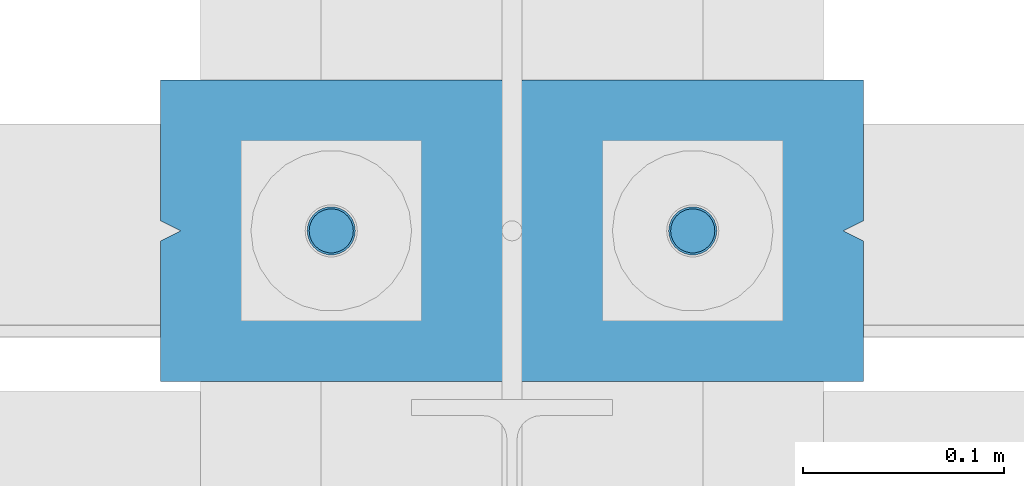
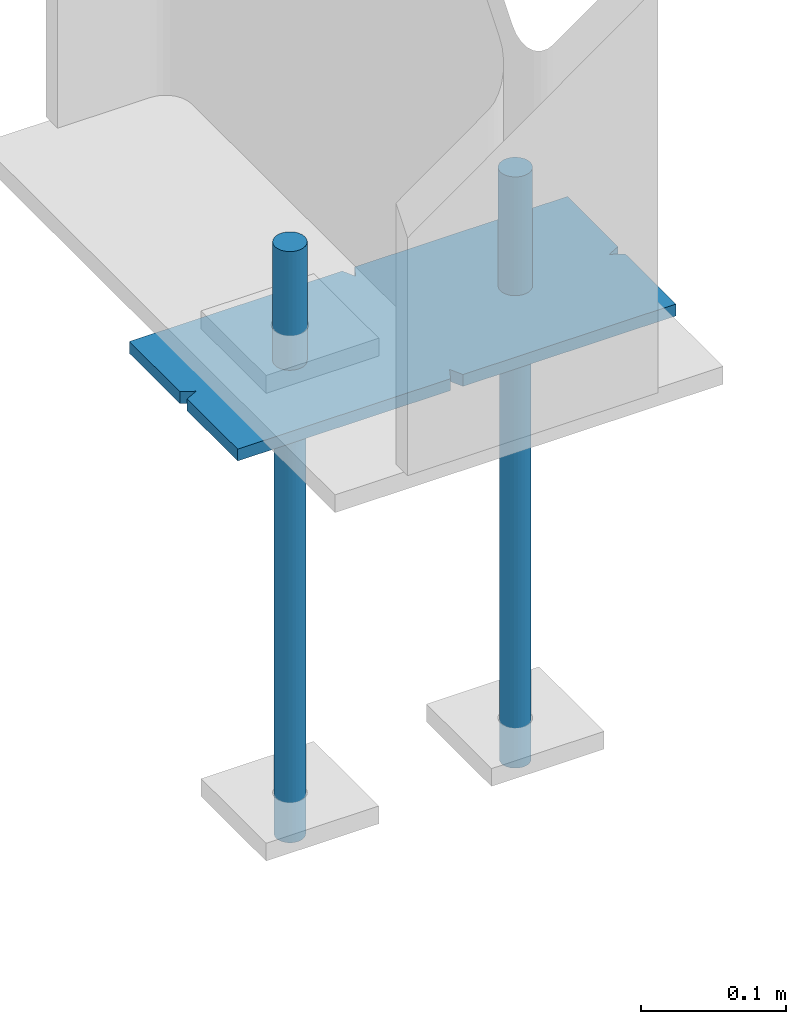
# One storey, part 69 of 123: 5 discrete accessories, 1 element without a shape of its own.
"""IFC2X3 building model written with IfcOpenShell, lengths in millimetres."""

from ifc_helpers import new_model, si_unit, frame, origin_with_axes, origin_2d_with_axis, place, context, subcontext, project, spatial, polyline, circle, outline, extrude, boolean, material, type_object, element, aggregate, save


model = new_model("IFC2X3")

# Units and contexts
model_context = context("Model", 3, precision=1e-05, world=origin_with_axes())
body_context = subcontext(model_context, "Body", "Model", "MODEL_VIEW")
ifc_project = project(units=[si_unit("LENGTHUNIT", "METRE", prefix="MILLI"), si_unit("AREAUNIT", "SQUARE_METRE"), si_unit("VOLUMEUNIT", "CUBIC_METRE"), si_unit("MASSUNIT", "GRAM", prefix="KILO"), si_unit("TIMEUNIT", "SECOND"), si_unit("PLANEANGLEUNIT", "RADIAN"), si_unit("SOLIDANGLEUNIT", "STERADIAN"), si_unit("THERMODYNAMICTEMPERATUREUNIT", "DEGREE_CELSIUS"), si_unit("LUMINOUSINTENSITYUNIT", "LUMEN")], contexts=[model_context])

# Site, building, storey
site_placement = place(None, origin_with_axes())
site = spatial("IfcSite", under=ifc_project, at=site_placement, Name="Undefined", CompositionType="ELEMENT")
building_placement = place(site_placement, origin_with_axes())
building = spatial("IfcBuilding", under=site, at=building_placement, Name="Undefined", CompositionType="ELEMENT")
storey_placement = place(building_placement, origin_with_axes())
storey = spatial("IfcBuildingStorey", under=building, at=storey_placement, Name="Undefined", CompositionType="ELEMENT", Elevation=0.0)

# Assembly, discrete accessories
assembly_placement = place(storey_placement, origin_with_axes())
assembly = element("IfcElementAssembly", 1, at=assembly_placement, inside=storey, Name="Steel Assembly", AssemblyPlace="NOTDEFINED", PredefinedType="RIGID_FRAME")
ifc_material = material(Name="STEEL/S235-E24")
discrete_accessory_type_1 = type_object("IfcDiscreteAccessoryType", Name="TIGE D'ANCRAGE")
discrete_accessory_1_placement = place(assembly_placement, frame((8389.99715044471, 0.0, -150.0), z_axis=(0.0, 1.0, 0.0), x_axis=(0.0, 0.0, -1.0)))
discrete_accessory_1 = element("IfcDiscreteAccessory", 2, at=discrete_accessory_1_placement, type_object=discrete_accessory_type_1, material=ifc_material, Name="TIGE D'ANCRAGE", ObjectType="D24", context=body_context, shape_type="SweptSolid", body=[
    extrude(circle(Radius=12.0, at=origin_2d_with_axis()), frame((150.0, 0.0, 0.0), z_axis=(-1.0, 0.0, 0.0), x_axis=(0.0, -1.0, 0.0)), (0.0, 0.0, 1.0), 150.0),
])
discrete_accessory_2_placement = place(assembly_placement, frame((8389.99715044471, 0.0, -300.0), z_axis=(0.0, 1.0, 0.0), x_axis=(0.0, 0.0, -1.0)))
discrete_accessory_2 = element("IfcDiscreteAccessory", 3, at=discrete_accessory_2_placement, type_object=discrete_accessory_type_1, material=ifc_material, Name="TIGE D'ANCRAGE", ObjectType="D22", context=body_context, shape_type="SweptSolid", body=[
    extrude(circle(Radius=11.0, at=origin_2d_with_axis()), frame((350.0, 0.0, 0.0), z_axis=(-1.0, 0.0, 0.0), x_axis=(0.0, -1.0, 0.0)), (0.0, 0.0, 1.0), 350.0),
])
discrete_accessory_3_placement = place(assembly_placement, frame((8569.99715044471, 0.0, -150.0), z_axis=(0.0, 1.0, 0.0), x_axis=(0.0, 0.0, -1.0)))
discrete_accessory_3 = element("IfcDiscreteAccessory", 4, at=discrete_accessory_3_placement, type_object=discrete_accessory_type_1, material=ifc_material, Name="TIGE D'ANCRAGE", ObjectType="D24", context=body_context, shape_type="SweptSolid", body=[
    extrude(circle(Radius=12.0, at=origin_2d_with_axis()), frame((150.0, 0.0, 0.0), z_axis=(-1.0, 0.0, 0.0), x_axis=(0.0, -1.0, 0.0)), (0.0, 0.0, 1.0), 150.0),
])
discrete_accessory_4_placement = place(assembly_placement, frame((8569.99715044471, 0.0, -300.0), z_axis=(0.0, 1.0, 0.0), x_axis=(0.0, 0.0, -1.0)))
discrete_accessory_4 = element("IfcDiscreteAccessory", 5, at=discrete_accessory_4_placement, type_object=discrete_accessory_type_1, material=ifc_material, Name="TIGE D'ANCRAGE", ObjectType="D22", context=body_context, shape_type="SweptSolid", body=[
    extrude(circle(Radius=11.0, at=origin_2d_with_axis()), frame((350.0, 0.0, 0.0), z_axis=(-1.0, 0.0, 0.0), x_axis=(0.0, -1.0, 0.0)), (0.0, 0.0, 1.0), 350.0),
])
discrete_accessory_type_2 = type_object("IfcDiscreteAccessoryType", Name="PRESCELLEMENT PS24")
discrete_accessory_5_placement = place(assembly_placement, frame((8655.0, 0.0, -255.0), z_axis=(0.0, 0.0, 1.0), x_axis=(-1.0, 0.0, 0.0)))
discrete_accessory_5 = element("IfcDiscreteAccessory", 6, at=discrete_accessory_5_placement, type_object=discrete_accessory_type_2, material=ifc_material, Name="PRESCELLEMENT PS24", ObjectType="PL10*150", context=body_context, shape_type="CSG", body=[
    boolean("DIFFERENCE", boolean("DIFFERENCE", boolean("DIFFERENCE", boolean("DIFFERENCE", extrude(outline(polyline([(175.000000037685, -65.0000000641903), (169.999999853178, -74.9999999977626), (0.0, -75.0), (0.0, -5.0), (9.99999993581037, -3.76858224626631e-08), (0.0, 5.00000014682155), (0.0, 75.0), (170.0, 75.0), (174.999999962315, 65.0000000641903), (180.000000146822, 75.0), (350.0, 75.0), (350.0, 5.00000018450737), (340.0, 0.0), (350.0, -4.99999996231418), (350.0, -75.0), (180.0, -75.0), (175.000000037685, -65.0000000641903)])), frame((0.0, 0.0, -5.0), z_axis=(0.0, 0.0, 1.0), x_axis=(1.0, 0.0, 0.0)), (0.0, 0.0, 1.0), 10.0), extrude(outline(polyline([(0.0, 0.0), (11.1803398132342, 1.2732925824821e-11), (4.47213602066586, 8.94427204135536), (0.0, 0.0)])), frame((0.0, -5.0, -7.5), z_axis=(0.0, 0.0, 1.0), x_axis=(0.89442719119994, 0.44721359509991, 0.0)), (0.0, 0.0, 1.0), 15.0)), extrude(outline(polyline([(0.0, 0.0), (11.1803398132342, 1.2732925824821e-11), (4.47213602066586, 8.94427204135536), (0.0, 0.0)])), frame((180.0, -75.0, -7.5), z_axis=(0.0, 0.0, 1.0), x_axis=(-0.447213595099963, 0.894427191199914, 0.0)), (0.0, 0.0, 1.0), 15.0)), extrude(outline(polyline([(0.0, 0.0), (11.1803398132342, 1.2732925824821e-11), (6.70820379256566, 8.94427204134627), (0.0, 0.0)])), frame((340.0, 0.0, -7.5), z_axis=(0.0, 0.0, 1.0), x_axis=(0.89442719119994, -0.44721359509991, 0.0)), (0.0, 0.0, 1.0), 15.0)), extrude(outline(polyline([(0.0, 0.0), (11.1803398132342, 1.2732925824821e-11), (4.47213602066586, 8.94427204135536), (0.0, 0.0)])), frame((170.0, 75.0, -7.5), z_axis=(0.0, 0.0, 1.0), x_axis=(0.447213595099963, -0.894427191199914, 0.0)), (0.0, 0.0, 1.0), 15.0)),
])
aggregate(assembly, [discrete_accessory_1, discrete_accessory_2, discrete_accessory_3, discrete_accessory_4, discrete_accessory_5])

save(model, "model.ifc")
